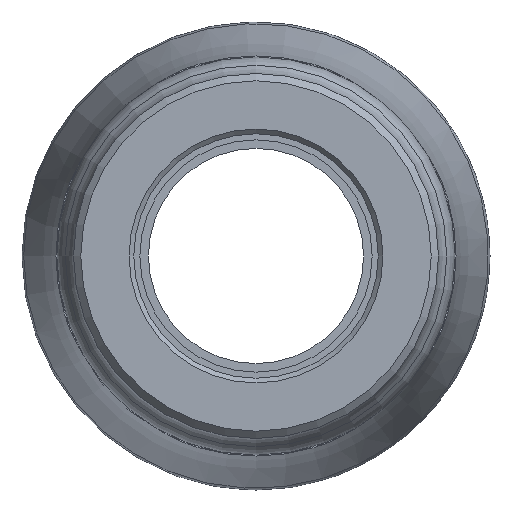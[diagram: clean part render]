
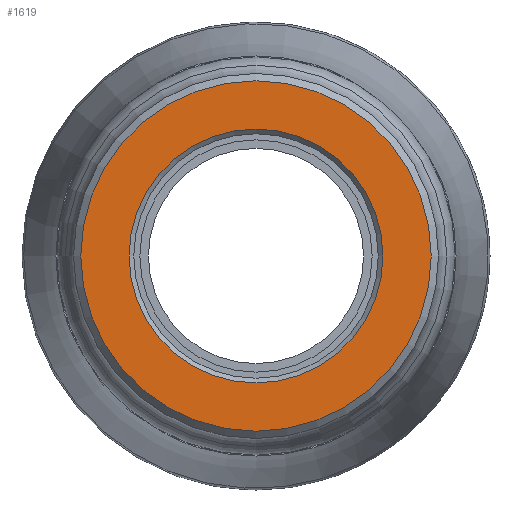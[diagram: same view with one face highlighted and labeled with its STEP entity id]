
A CAD part, left-side view. The second image highlights one B-rep face of the part: STEP entity #1619.
In plain terms, the highlighted planar face has unit normal (-1, 0, 0).
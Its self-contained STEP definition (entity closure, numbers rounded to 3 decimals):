
#29=FACE_BOUND('',#401,.T.);
#212=PLANE('',#1776);
#290=FACE_OUTER_BOUND('',#400,.T.);
#400=EDGE_LOOP('',(#1219));
#401=EDGE_LOOP('',(#1220));
#542=CIRCLE('',#1775,15.726);
#543=CIRCLE('',#1777,21.711);
#728=VERTEX_POINT('',#2870);
#729=VERTEX_POINT('',#2873);
#910=EDGE_CURVE('',#728,#728,#542,.T.);
#911=EDGE_CURVE('',#729,#729,#543,.T.);
#1219=ORIENTED_EDGE('',*,*,#911,.F.);
#1220=ORIENTED_EDGE('',*,*,#910,.F.);
#1619=ADVANCED_FACE('',(#290,#29),#212,.T.);
#1775=AXIS2_PLACEMENT_3D('',#2871,#2067,#2068);
#1776=AXIS2_PLACEMENT_3D('',#2872,#2069,#2070);
#1777=AXIS2_PLACEMENT_3D('',#2874,#2071,#2072);
#2067=DIRECTION('center_axis',(-1.,0.,0.));
#2068=DIRECTION('ref_axis',(0.,-1.,0.));
#2069=DIRECTION('center_axis',(-1.,0.,0.));
#2070=DIRECTION('ref_axis',(0.,0.,1.));
#2071=DIRECTION('center_axis',(1.,0.,0.));
#2072=DIRECTION('ref_axis',(0.,-1.,0.));
#2870=CARTESIAN_POINT('',(0.,15.726,0.));
#2871=CARTESIAN_POINT('Origin',(0.,0.,0.));
#2872=CARTESIAN_POINT('Origin',(0.,22.62,0.));
#2873=CARTESIAN_POINT('',(0.,21.711,0.));
#2874=CARTESIAN_POINT('Origin',(0.,0.,0.));
